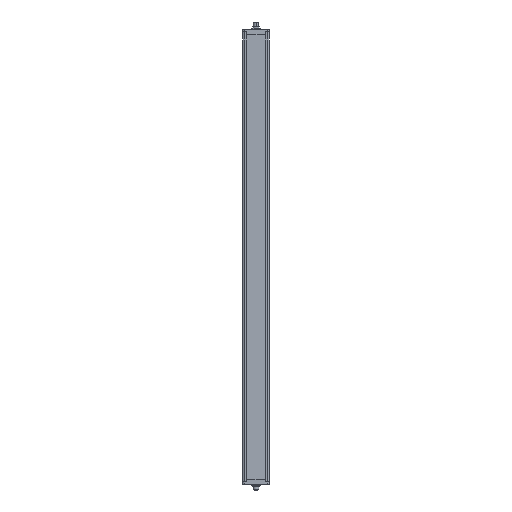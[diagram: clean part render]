
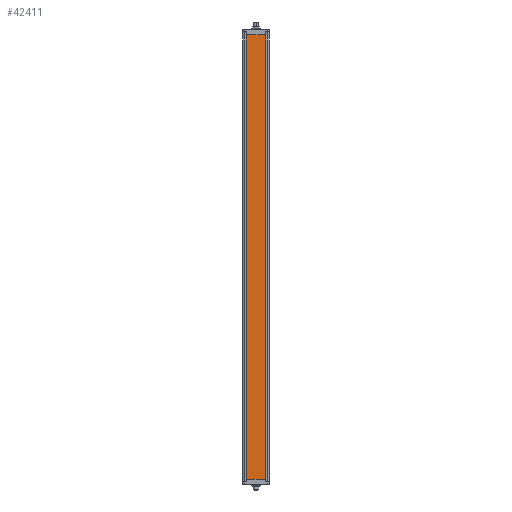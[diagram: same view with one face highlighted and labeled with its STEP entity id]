
A CAD part, front view. The second image highlights one B-rep face of the part: STEP entity #42411.
In plain terms, the highlighted planar face has unit normal (0, -1, 0).
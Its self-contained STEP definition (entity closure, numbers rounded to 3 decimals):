
#3014 = EDGE_CURVE ( 'NONE', #47240, #34558, #40302, .T. ) ;
#4208 = DIRECTION ( 'NONE',  ( 0., 0., -1. ) ) ;
#4362 = CARTESIAN_POINT ( 'NONE',  ( 23.7, -23.8, 1023. ) ) ;
#5139 = EDGE_CURVE ( 'NONE', #34558, #10832, #17708, .T. ) ;
#5724 = DIRECTION ( 'NONE',  ( 0., 0., -1. ) ) ;
#7145 = DIRECTION ( 'NONE',  ( 1., 0., 0. ) ) ;
#9415 = DIRECTION ( 'NONE',  ( 0., -1., 0. ) ) ;
#9986 = VECTOR ( 'NONE', #36592, 1000. ) ;
#10479 = DIRECTION ( 'NONE',  ( -1., 0., 0. ) ) ;
#10832 = VERTEX_POINT ( 'NONE', #42636 ) ;
#11405 = CARTESIAN_POINT ( 'NONE',  ( -23.7, -23.8, 1023. ) ) ;
#14363 = VERTEX_POINT ( 'NONE', #11405 ) ;
#14481 = CARTESIAN_POINT ( 'NONE',  ( 23.7, -23.8, 0. ) ) ;
#16224 = ORIENTED_EDGE ( 'NONE', *, *, #3014, .F. ) ;
#16305 = ORIENTED_EDGE ( 'NONE', *, *, #39448, .F. ) ;
#16859 = EDGE_LOOP ( 'NONE', ( #16305, #37706, #47310, #16224 ) ) ;
#17708 = LINE ( 'NONE', #36176, #18752 ) ;
#18752 = VECTOR ( 'NONE', #10479, 1000. ) ;
#21584 = CARTESIAN_POINT ( 'NONE',  ( 23.7, -23.8, 1070.491 ) ) ;
#22283 = CARTESIAN_POINT ( 'NONE',  ( -23.7, -23.8, 1070.491 ) ) ;
#26002 = LINE ( 'NONE', #22283, #40518 ) ;
#27611 = AXIS2_PLACEMENT_3D ( 'NONE', #47181, #9415, #5724 ) ;
#33336 = CARTESIAN_POINT ( 'NONE',  ( 23.7, -23.8, 1023. ) ) ;
#34558 = VERTEX_POINT ( 'NONE', #14481 ) ;
#35281 = EDGE_CURVE ( 'NONE', #14363, #10832, #26002, .T. ) ;
#36176 = CARTESIAN_POINT ( 'NONE',  ( 23.7, -23.8, 0. ) ) ;
#36592 = DIRECTION ( 'NONE',  ( 0., 0., -1. ) ) ;
#37555 = VECTOR ( 'NONE', #7145, 1000. ) ;
#37706 = ORIENTED_EDGE ( 'NONE', *, *, #35281, .T. ) ;
#39300 = PLANE ( 'NONE',  #27611 ) ;
#39448 = EDGE_CURVE ( 'NONE', #14363, #47240, #40499, .T. ) ;
#40302 = LINE ( 'NONE', #21584, #9986 ) ;
#40499 = LINE ( 'NONE', #33336, #37555 ) ;
#40518 = VECTOR ( 'NONE', #4208, 1000. ) ;
#42411 = ADVANCED_FACE ( 'NONE', ( #43244 ), #39300, .T. ) ;
#42636 = CARTESIAN_POINT ( 'NONE',  ( -23.7, -23.8, 0. ) ) ;
#43244 = FACE_OUTER_BOUND ( 'NONE', #16859, .T. ) ;
#47181 = CARTESIAN_POINT ( 'NONE',  ( 23.7, -23.8, 1070.491 ) ) ;
#47240 = VERTEX_POINT ( 'NONE', #4362 ) ;
#47310 = ORIENTED_EDGE ( 'NONE', *, *, #5139, .F. ) ;
